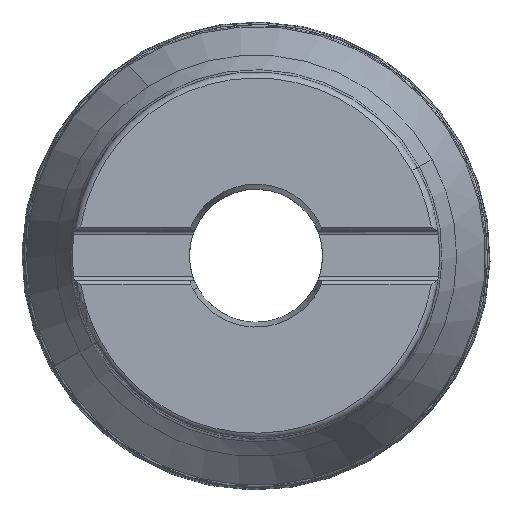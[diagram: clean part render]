
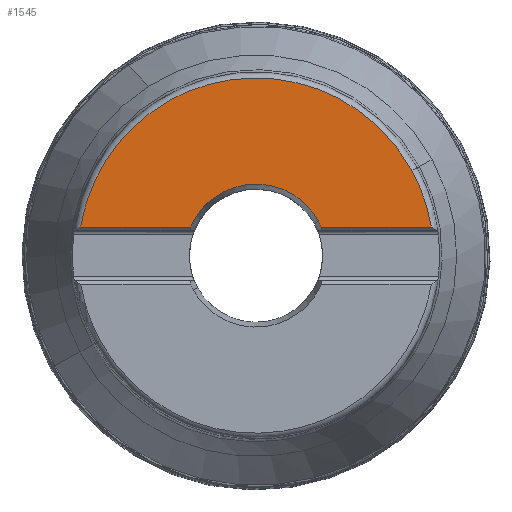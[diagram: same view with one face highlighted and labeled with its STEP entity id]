
A CAD part, top view. The second image highlights one B-rep face of the part: STEP entity #1545.
In plain terms, the highlighted planar face has unit normal (0, 0, 1).
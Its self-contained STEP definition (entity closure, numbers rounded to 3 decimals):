
#940=AXIS2_PLACEMENT_3D('Circle Axis2P3D',#938,#939,$) ;
#1197=AXIS2_PLACEMENT_3D('Plane Axis2P3D',#1194,#1195,#1196) ;
#1253=AXIS2_PLACEMENT_3D('Circle Axis2P3D',#1251,#1252,$) ;
#938=CARTESIAN_POINT('Axis2P3D Location',(0.,0.,0.)) ;
#942=CARTESIAN_POINT('Vertex',(11.968,6.538,0.)) ;
#944=CARTESIAN_POINT('Vertex',(12.502,5.45,0.)) ;
#1194=CARTESIAN_POINT('Axis2P3D Location',(0.,19.325,0.)) ;
#1251=CARTESIAN_POINT('Axis2P3D Location',(0.,0.,0.)) ;
#1255=CARTESIAN_POINT('Vertex',(-12.502,5.45,0.)) ;
#1469=CARTESIAN_POINT('Line Origine',(22.966,5.45,0.)) ;
#1473=CARTESIAN_POINT('Vertex',(33.43,5.45,0.)) ;
#1494=CARTESIAN_POINT('Line Origine',(-22.966,5.45,0.)) ;
#1498=CARTESIAN_POINT('Vertex',(-33.43,5.45,0.)) ;
#1502=CARTESIAN_POINT('Control Point',(33.43,5.45,0.)) ;
#1503=CARTESIAN_POINT('Control Point',(33.062,7.713,0.)) ;
#1504=CARTESIAN_POINT('Control Point',(32.501,9.944,0.)) ;
#1505=CARTESIAN_POINT('Control Point',(31.753,12.122,0.)) ;
#1506=CARTESIAN_POINT('Control Point',(30.824,14.227,0.)) ;
#1507=CARTESIAN_POINT('Control Point',(29.725,16.239,0.)) ;
#1508=CARTESIAN_POINT('Vertex',(29.725,16.239,0.)) ;
#1512=CARTESIAN_POINT('Control Point',(29.725,16.239,0.)) ;
#1513=CARTESIAN_POINT('Control Point',(28.449,18.576,0.)) ;
#1514=CARTESIAN_POINT('Control Point',(26.942,20.788,0.)) ;
#1515=CARTESIAN_POINT('Control Point',(25.222,22.844,0.)) ;
#1516=CARTESIAN_POINT('Control Point',(21.401,26.591,0.)) ;
#1517=CARTESIAN_POINT('Control Point',(16.924,29.523,0.)) ;
#1518=CARTESIAN_POINT('Control Point',(14.547,30.763,0.)) ;
#1519=CARTESIAN_POINT('Control Point',(9.582,32.761,0.)) ;
#1520=CARTESIAN_POINT('Control Point',(4.323,33.754,0.)) ;
#1521=CARTESIAN_POINT('Control Point',(1.653,33.989,0.)) ;
#1522=CARTESIAN_POINT('Control Point',(-3.699,33.932,0.)) ;
#1523=CARTESIAN_POINT('Control Point',(-8.938,32.835,0.)) ;
#1524=CARTESIAN_POINT('Control Point',(-11.494,32.029,0.)) ;
#1525=CARTESIAN_POINT('Control Point',(-16.416,29.927,0.)) ;
#1526=CARTESIAN_POINT('Control Point',(-20.834,26.906,0.)) ;
#1527=CARTESIAN_POINT('Control Point',(-22.887,25.183,0.)) ;
#1528=CARTESIAN_POINT('Control Point',(-26.628,21.355,0.)) ;
#1529=CARTESIAN_POINT('Control Point',(-29.552,16.872,0.)) ;
#1530=CARTESIAN_POINT('Control Point',(-30.789,14.494,0.)) ;
#1531=CARTESIAN_POINT('Control Point',(-32.09,11.244,0.)) ;
#1532=CARTESIAN_POINT('Control Point',(-32.961,7.868,0.)) ;
#1533=CARTESIAN_POINT('Control Point',(-33.142,7.067,0.)) ;
#1534=CARTESIAN_POINT('Control Point',(-33.298,6.26,0.)) ;
#1535=CARTESIAN_POINT('Control Point',(-33.43,5.45,0.)) ;
#939=DIRECTION('Axis2P3D Direction',(0.,0.,1.)) ;
#1195=DIRECTION('Axis2P3D Direction',(0.,0.,-1.)) ;
#1196=DIRECTION('Axis2P3D XDirection',(-1.,-0.,-0.)) ;
#1252=DIRECTION('Axis2P3D Direction',(0.,0.,1.)) ;
#1470=DIRECTION('Vector Direction',(-1.,0.,0.)) ;
#1495=DIRECTION('Vector Direction',(-1.,0.,0.)) ;
#1471=VECTOR('Line Direction',#1470,1.) ;
#1496=VECTOR('Line Direction',#1495,1.) ;
#1538=ORIENTED_EDGE('',*,*,#1500,.F.) ;
#1539=ORIENTED_EDGE('',*,*,#1257,.T.) ;
#1540=ORIENTED_EDGE('',*,*,#946,.T.) ;
#1541=ORIENTED_EDGE('',*,*,#1475,.F.) ;
#1542=ORIENTED_EDGE('',*,*,#1510,.T.) ;
#1543=ORIENTED_EDGE('',*,*,#1536,.T.) ;
#1545=ADVANCED_FACE('NOCUT',(#1544),#1198,.F.) ;
#1501=B_SPLINE_CURVE_WITH_KNOTS('',5,(#1502,#1503,#1504,#1505,#1506,#1507),.UNSPECIFIED.,.F.,.U.,(6,6),(1.215,17.217),.UNSPECIFIED.) ;
#1511=B_SPLINE_CURVE_WITH_KNOTS('',5,(#1512,#1513,#1514,#1515,#1516,#1517,#1518,#1519,#1520,#1521,#1522,#1523,#1524,#1525,#1526,#1527,#1528,#1529,#1530,#1531,#1532,#1533,#1534,#1535),.UNSPECIFIED.,.F.,.U.,(6,3,3,3,3,3,3,6),(0.,18.59,37.181,55.772,74.363,92.954,111.545,117.277),.UNSPECIFIED.) ;
#941=CIRCLE('generated circle',#940,13.638) ;
#1254=CIRCLE('generated circle',#1253,13.638) ;
#946=EDGE_CURVE('',#943,#945,#941,.F.) ;
#1257=EDGE_CURVE('',#1256,#943,#1254,.F.) ;
#1475=EDGE_CURVE('',#1474,#945,#1472,.T.) ;
#1500=EDGE_CURVE('',#1256,#1499,#1497,.T.) ;
#1510=EDGE_CURVE('',#1474,#1509,#1501,.T.) ;
#1536=EDGE_CURVE('',#1509,#1499,#1511,.T.) ;
#1537=EDGE_LOOP('',(#1538,#1539,#1540,#1541,#1542,#1543)) ;
#1544=FACE_OUTER_BOUND('',#1537,.T.) ;
#1472=LINE('Line',#1469,#1471) ;
#1497=LINE('Line',#1494,#1496) ;
#1198=PLANE('',#1197) ;
#943=VERTEX_POINT('',#942) ;
#945=VERTEX_POINT('',#944) ;
#1256=VERTEX_POINT('',#1255) ;
#1474=VERTEX_POINT('',#1473) ;
#1499=VERTEX_POINT('',#1498) ;
#1509=VERTEX_POINT('',#1508) ;
